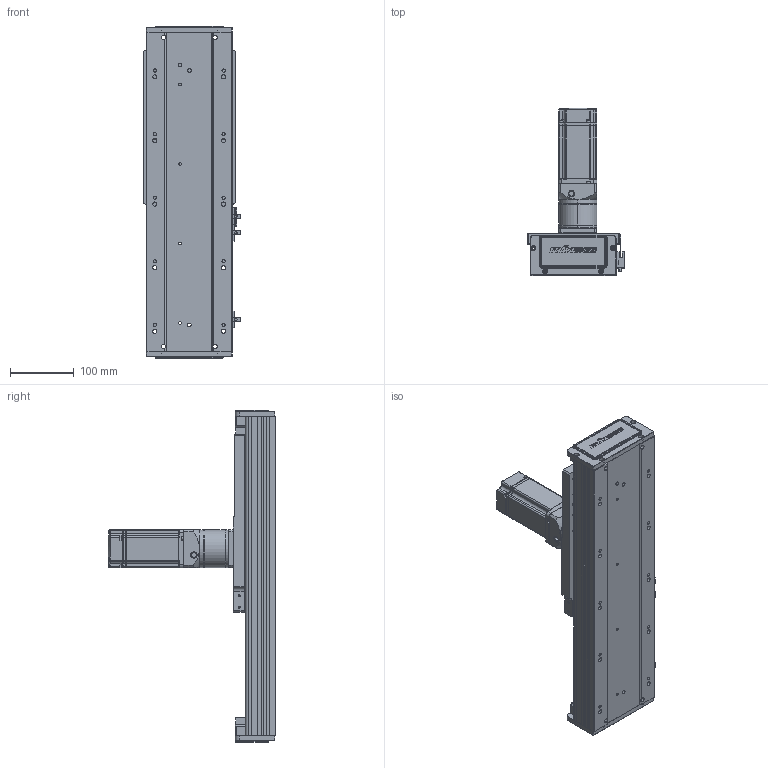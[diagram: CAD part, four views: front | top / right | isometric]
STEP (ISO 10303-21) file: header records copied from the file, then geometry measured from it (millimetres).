
FILE_DESCRIPTION (( 'STEP AP203' ), '1' );
FILE_NAME ('RY140-C-250-UK.SLDASM_150.step', '2022-03-12T01:58:03', ( '' ), ( '' ), 'SwSTEP 2.0', 'SolidWorks 2016', '' );
FILE_SCHEMA (( 'CONFIG_CONTROL_DESIGN' ));
Length unit declared in the file: millimetre
Products named in the file (12): RY140-喘謫萇儂覃誹啣; 15; 60ZDF珨撰俋倛芞T1 200W M4; 絳寢賑輸EGH15; 覜茼ん672; RY140-C-250-UK.SLDASM_150; RY120外置感应片(140共用）; RY140-300齿条模组型材底座_150; RY140-絳寢EGH15-300-MK_150; 140蚥薯蝶輸; RY140-喘沭賑輸; RY140-喘沭裔啣
Assembly tree (21 placements, depth 2):
  RY140-C-250-UK.SLDASM_150
    RY140-300齿条模组型材底座_150
    RY140-絳寢EGH15-300-MK_150  x2
    絳寢賑輸EGH15  x6
    RY140-喘沭裔啣  x2
    覜茼ん672  x3
    RY140-喘沭賑輸
    RY120外置感应片(140共用）
    RY140-喘謫萇儂覃誹啣
    140蚥薯蝶輸  x2
    60ZDF珨撰俋倛芞T1 200W M4
    15
Bounding box: 153.7 x 263.5 x 522 mm (x, y, z)
Volume: 2984435.5 mm3; surface area: 698874.7 mm2
Topology: 21 solids, 21 shells, 2960 faces, 7740 edges, 5030 vertices
Faces by surface type: plane 1602, cylinder 1132, cone 180, bspline 46
Entity records: 62321 total; most frequent: CARTESIAN_POINT 12855, DIRECTION 10073, ORIENTED_EDGE 9886, EDGE_CURVE 4943, AXIS2_PLACEMENT_3D 3497, VERTEX_POINT 3231, LINE 3079, VECTOR 3079
